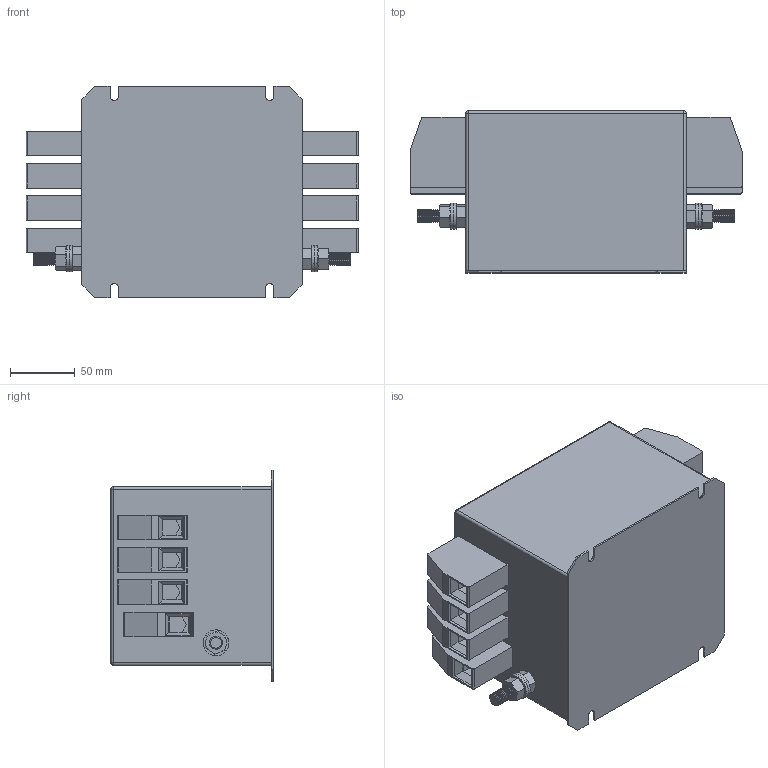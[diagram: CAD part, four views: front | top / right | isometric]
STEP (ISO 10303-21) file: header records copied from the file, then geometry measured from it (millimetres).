
FILE_DESCRIPTION (( 'STEP AP203' ), '1' );
FILE_NAME ('NF-4-80-FTN.STEP', '2018-02-14T10:35:34', ( '' ), ( '' ), 'SwSTEP 2.0', 'SolidWorks 2017', '' );
FILE_SCHEMA (( 'CONFIG_CONTROL_DESIGN' ));
Length unit declared in the file: millimetre
Products named in the file (7): hex nut style 1_am_B18.2.4.1M - Hex nut, Style 1,  M10 x 1.5, with 16mm WAF --D-N; NF-4-80-FTN; hex screw_am_B18.6.7M - M10 x 1.5 x 30 Indented HHMS --30S; HDFK-50; M10x30 Earth post; FTN-80; flat washer narrow_am_B18.22M - Plain washer, 10 mm, narrow
Assembly tree (15 placements, depth 3):
  NF-4-80-FTN
    FTN-80
    M10x30 Earth post  x2
      flat washer narrow_am_B18.22M - Plain washer, 10 mm, narrow
      hex nut style 1_am_B18.2.4.1M - Hex nut, Style 1,  M10 x 1.5, with 16mm WAF --D-N
      hex screw_am_B18.6.7M - M10 x 1.5 x 30 Indented HHMS --30S
    HDFK-50  x8
Bounding box: 256.01 x 125 x 163 mm (x, y, z)
Volume: 3082549.5 mm3; surface area: 326007 mm2
Topology: 18 solids, 18 shells, 896 faces, 2180 edges, 1384 vertices
Faces by surface type: plane 480, cylinder 212, cone 200, sphere 4
Entity records: 9949 total; most frequent: CARTESIAN_POINT 1713, DIRECTION 1616, ORIENTED_EDGE 1468, EDGE_CURVE 734, AXIS2_PLACEMENT_3D 605, VERTEX_POINT 462, VECTOR 406, LINE 406
